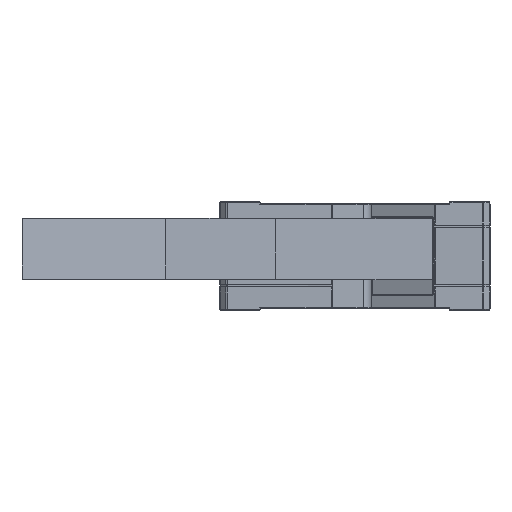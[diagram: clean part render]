
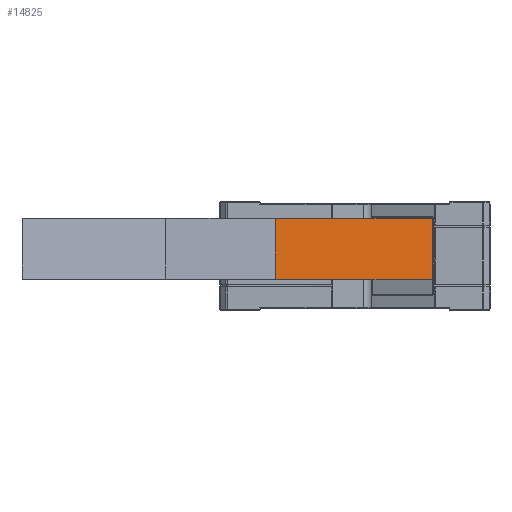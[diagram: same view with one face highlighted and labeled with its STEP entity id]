
A CAD part, top view. The second image highlights one B-rep face of the part: STEP entity #14825.
In plain terms, the highlighted planar face has unit normal (0.679, 0, 0.735).
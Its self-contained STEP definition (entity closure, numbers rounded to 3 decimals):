
#1208 = DIRECTION ( 'NONE',  ( 0.734, 0., -0.679 ) ) ;
#5990 = CARTESIAN_POINT ( 'NONE',  ( -23.5, -7., 42.5 ) ) ;
#6912 = LINE ( 'NONE', #26052, #82389 ) ;
#9047 = VECTOR ( 'NONE', #86579, 1000. ) ;
#9899 = FACE_OUTER_BOUND ( 'NONE', #45148, .T. ) ;
#10160 = EDGE_CURVE ( 'NONE', #13135, #51551, #6912, .T. ) ;
#12772 = DIRECTION ( 'NONE',  ( 0., 1., 0. ) ) ;
#13135 = VERTEX_POINT ( 'NONE', #44475 ) ;
#14825 = ADVANCED_FACE ( 'NONE', ( #9899 ), #81786, .T. ) ;
#15387 = LINE ( 'NONE', #74582, #87205 ) ;
#19849 = LINE ( 'NONE', #5990, #9047 ) ;
#20527 = EDGE_CURVE ( 'NONE', #81446, #13135, #15387, .T. ) ;
#22799 = VERTEX_POINT ( 'NONE', #22995 ) ;
#22995 = CARTESIAN_POINT ( 'NONE',  ( -23.5, 11., 42.5 ) ) ;
#23836 = VECTOR ( 'NONE', #39228, 1000. ) ;
#26052 = CARTESIAN_POINT ( 'NONE',  ( 22.932, -7., -0.399 ) ) ;
#33625 = ORIENTED_EDGE ( 'NONE', *, *, #10160, .T. ) ;
#37966 = ORIENTED_EDGE ( 'NONE', *, *, #75198, .F. ) ;
#39228 = DIRECTION ( 'NONE',  ( 0.734, 0., -0.679 ) ) ;
#41730 = CARTESIAN_POINT ( 'NONE',  ( 22.5, -7., 0. ) ) ;
#42070 = DIRECTION ( 'NONE',  ( 0.734, 0., -0.679 ) ) ;
#44475 = CARTESIAN_POINT ( 'NONE',  ( 22.932, -7., -0.399 ) ) ;
#45148 = EDGE_LOOP ( 'NONE', ( #63509, #37966, #62046, #33625 ) ) ;
#46304 = LINE ( 'NONE', #73909, #23836 ) ;
#47921 = DIRECTION ( 'NONE',  ( 0.679, 0., 0.734 ) ) ;
#51551 = VERTEX_POINT ( 'NONE', #73036 ) ;
#62046 = ORIENTED_EDGE ( 'NONE', *, *, #20527, .T. ) ;
#63509 = ORIENTED_EDGE ( 'NONE', *, *, #66809, .F. ) ;
#64939 = CARTESIAN_POINT ( 'NONE',  ( -23.5, -7., 42.5 ) ) ;
#66809 = EDGE_CURVE ( 'NONE', #22799, #51551, #46304, .T. ) ;
#73036 = CARTESIAN_POINT ( 'NONE',  ( 22.932, 11., -0.399 ) ) ;
#73909 = CARTESIAN_POINT ( 'NONE',  ( 22.5, 11., 0. ) ) ;
#74582 = CARTESIAN_POINT ( 'NONE',  ( -23.5, -7., 42.5 ) ) ;
#75198 = EDGE_CURVE ( 'NONE', #81446, #22799, #19849, .T. ) ;
#81446 = VERTEX_POINT ( 'NONE', #64939 ) ;
#81786 = PLANE ( 'NONE',  #86181 ) ;
#82389 = VECTOR ( 'NONE', #12772, 1000. ) ;
#86181 = AXIS2_PLACEMENT_3D ( 'NONE', #41730, #47921, #1208 ) ;
#86579 = DIRECTION ( 'NONE',  ( 0., 1., 0. ) ) ;
#87205 = VECTOR ( 'NONE', #42070, 1000. ) ;
